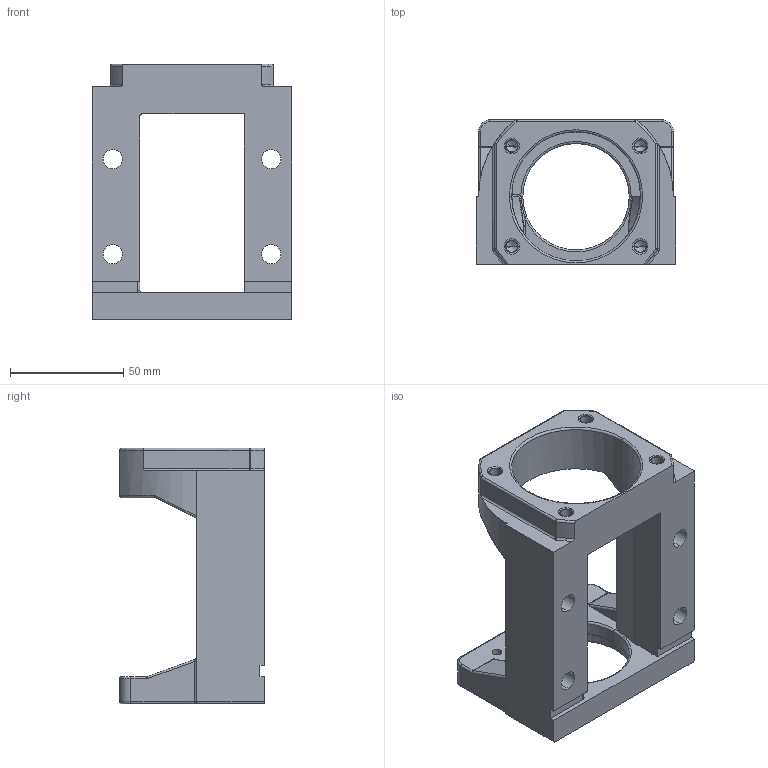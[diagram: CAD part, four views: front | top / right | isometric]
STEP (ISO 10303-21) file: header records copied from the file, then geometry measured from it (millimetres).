
FILE_DESCRIPTION (( 'STEP AP203' ), '1' );
FILE_NAME ('傳動座MBL20-DP.STEP', '2017-12-28T06:16:45', ( '' ), ( '' ), 'SwSTEP 2.0', 'SolidWorks 2017', '' );
FILE_SCHEMA (( 'CONFIG_CONTROL_DESIGN' ));
Length unit declared in the file: millimetre
Products named in the file (1): 傳動座MBL20-DP
Bounding box: 88 x 64 x 113 mm (x, y, z)
Volume: 186570.2 mm3; surface area: 45886.8 mm2
Topology: 1 solids, 1 shells, 248 faces, 608 edges, 347 vertices
Faces by surface type: cylinder 93, torus 55, plane 40, cone 30, bspline 22, sphere 8
Entity records: 7912 total; most frequent: CARTESIAN_POINT 2144, DIRECTION 1252, ORIENTED_EDGE 1178, EDGE_CURVE 589, AXIS2_PLACEMENT_3D 514, VERTEX_POINT 347, CIRCLE 287, EDGE_LOOP 274
